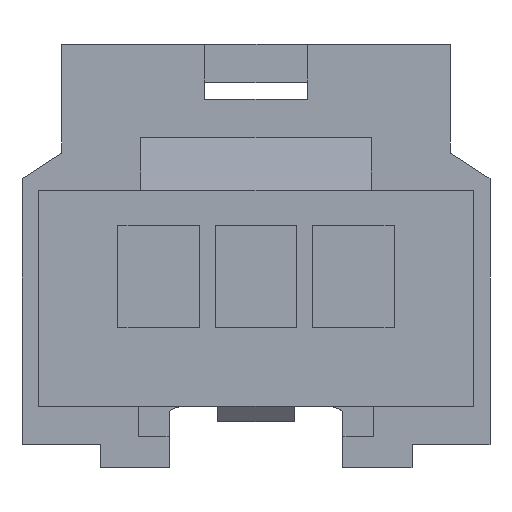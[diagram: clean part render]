
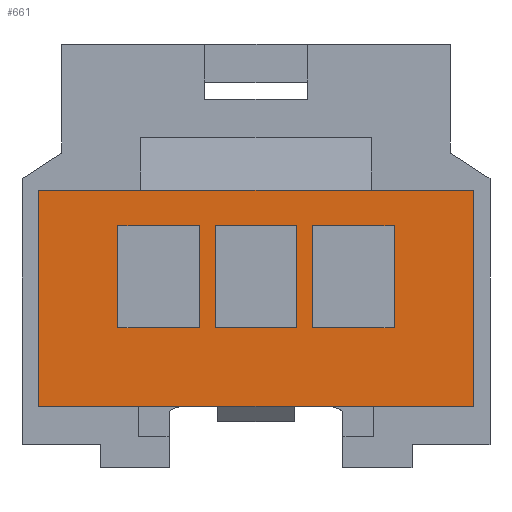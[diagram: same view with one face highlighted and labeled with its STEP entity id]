
A CAD part, front view. The second image highlights one B-rep face of the part: STEP entity #661.
In plain terms, the highlighted planar face has unit normal (0, -1, 0).
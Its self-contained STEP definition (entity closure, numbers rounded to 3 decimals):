
#539=AXIS2_PLACEMENT_3D('Plane Axis2P3D',#536,#537,#538) ;
#90=CARTESIAN_POINT('Vertex',(8.5,-18.25,-5.85)) ;
#93=CARTESIAN_POINT('Line Origine',(0.,-18.25,-5.85)) ;
#97=CARTESIAN_POINT('Vertex',(-8.5,-18.25,-5.85)) ;
#521=CARTESIAN_POINT('Vertex',(8.5,-18.25,2.6)) ;
#524=CARTESIAN_POINT('Line Origine',(8.5,-18.25,-1.625)) ;
#536=CARTESIAN_POINT('Axis2P3D Location',(-8.84,-18.25,-6.019)) ;
#541=CARTESIAN_POINT('Line Origine',(-8.5,-18.25,-1.625)) ;
#545=CARTESIAN_POINT('Vertex',(-8.5,-18.25,2.6)) ;
#548=CARTESIAN_POINT('Line Origine',(0.,-18.25,2.6)) ;
#559=CARTESIAN_POINT('Line Origine',(-3.8,-18.25,1.21)) ;
#563=CARTESIAN_POINT('Vertex',(-2.2,-18.25,1.21)) ;
#565=CARTESIAN_POINT('Vertex',(-5.4,-18.25,1.21)) ;
#568=CARTESIAN_POINT('Line Origine',(-2.2,-18.25,-0.79)) ;
#572=CARTESIAN_POINT('Vertex',(-2.2,-18.25,-2.79)) ;
#575=CARTESIAN_POINT('Line Origine',(-3.8,-18.25,-2.79)) ;
#579=CARTESIAN_POINT('Vertex',(-5.4,-18.25,-2.79)) ;
#582=CARTESIAN_POINT('Line Origine',(-5.4,-18.25,-0.79)) ;
#593=CARTESIAN_POINT('Line Origine',(0.,-18.25,1.21)) ;
#597=CARTESIAN_POINT('Vertex',(1.6,-18.25,1.21)) ;
#599=CARTESIAN_POINT('Vertex',(-1.6,-18.25,1.21)) ;
#602=CARTESIAN_POINT('Line Origine',(1.6,-18.25,-0.79)) ;
#606=CARTESIAN_POINT('Vertex',(1.6,-18.25,-2.79)) ;
#609=CARTESIAN_POINT('Line Origine',(0.,-18.25,-2.79)) ;
#613=CARTESIAN_POINT('Vertex',(-1.6,-18.25,-2.79)) ;
#616=CARTESIAN_POINT('Line Origine',(-1.6,-18.25,-0.79)) ;
#627=CARTESIAN_POINT('Line Origine',(3.8,-18.25,1.21)) ;
#631=CARTESIAN_POINT('Vertex',(5.4,-18.25,1.21)) ;
#633=CARTESIAN_POINT('Vertex',(2.2,-18.25,1.21)) ;
#636=CARTESIAN_POINT('Line Origine',(5.4,-18.25,-0.79)) ;
#640=CARTESIAN_POINT('Vertex',(5.4,-18.25,-2.79)) ;
#643=CARTESIAN_POINT('Line Origine',(3.8,-18.25,-2.79)) ;
#647=CARTESIAN_POINT('Vertex',(2.2,-18.25,-2.79)) ;
#650=CARTESIAN_POINT('Line Origine',(2.2,-18.25,-0.79)) ;
#94=DIRECTION('Vector Direction',(-1.,0.,0.)) ;
#525=DIRECTION('Vector Direction',(0.,0.,-1.)) ;
#537=DIRECTION('Axis2P3D Direction',(0.,-1.,0.)) ;
#538=DIRECTION('Axis2P3D XDirection',(1.,0.,0.)) ;
#542=DIRECTION('Vector Direction',(0.,0.,1.)) ;
#549=DIRECTION('Vector Direction',(1.,0.,0.)) ;
#560=DIRECTION('Vector Direction',(1.,0.,0.)) ;
#569=DIRECTION('Vector Direction',(0.,0.,1.)) ;
#576=DIRECTION('Vector Direction',(-1.,0.,0.)) ;
#583=DIRECTION('Vector Direction',(0.,0.,-1.)) ;
#594=DIRECTION('Vector Direction',(1.,0.,0.)) ;
#603=DIRECTION('Vector Direction',(0.,0.,1.)) ;
#610=DIRECTION('Vector Direction',(-1.,0.,0.)) ;
#617=DIRECTION('Vector Direction',(0.,0.,-1.)) ;
#628=DIRECTION('Vector Direction',(1.,0.,0.)) ;
#637=DIRECTION('Vector Direction',(0.,0.,1.)) ;
#644=DIRECTION('Vector Direction',(-1.,0.,0.)) ;
#651=DIRECTION('Vector Direction',(0.,0.,-1.)) ;
#95=VECTOR('Line Direction',#94,1.) ;
#526=VECTOR('Line Direction',#525,1.) ;
#543=VECTOR('Line Direction',#542,1.) ;
#550=VECTOR('Line Direction',#549,1.) ;
#561=VECTOR('Line Direction',#560,1.) ;
#570=VECTOR('Line Direction',#569,1.) ;
#577=VECTOR('Line Direction',#576,1.) ;
#584=VECTOR('Line Direction',#583,1.) ;
#595=VECTOR('Line Direction',#594,1.) ;
#604=VECTOR('Line Direction',#603,1.) ;
#611=VECTOR('Line Direction',#610,1.) ;
#618=VECTOR('Line Direction',#617,1.) ;
#629=VECTOR('Line Direction',#628,1.) ;
#638=VECTOR('Line Direction',#637,1.) ;
#645=VECTOR('Line Direction',#644,1.) ;
#652=VECTOR('Line Direction',#651,1.) ;
#554=ORIENTED_EDGE('',*,*,#547,.F.) ;
#555=ORIENTED_EDGE('',*,*,#99,.F.) ;
#556=ORIENTED_EDGE('',*,*,#528,.F.) ;
#557=ORIENTED_EDGE('',*,*,#552,.F.) ;
#588=ORIENTED_EDGE('',*,*,#567,.F.) ;
#589=ORIENTED_EDGE('',*,*,#574,.F.) ;
#590=ORIENTED_EDGE('',*,*,#581,.F.) ;
#591=ORIENTED_EDGE('',*,*,#586,.F.) ;
#622=ORIENTED_EDGE('',*,*,#601,.F.) ;
#623=ORIENTED_EDGE('',*,*,#608,.F.) ;
#624=ORIENTED_EDGE('',*,*,#615,.F.) ;
#625=ORIENTED_EDGE('',*,*,#620,.F.) ;
#656=ORIENTED_EDGE('',*,*,#635,.F.) ;
#657=ORIENTED_EDGE('',*,*,#642,.F.) ;
#658=ORIENTED_EDGE('',*,*,#649,.F.) ;
#659=ORIENTED_EDGE('',*,*,#654,.F.) ;
#592=FACE_BOUND('',#587,.T.) ;
#626=FACE_BOUND('',#621,.T.) ;
#660=FACE_BOUND('',#655,.T.) ;
#661=ADVANCED_FACE('MANIFOLD_SOLID_BREP #33',(#558,#592,#626,#660),#540,.T.) ;
#99=EDGE_CURVE('',#91,#98,#96,.T.) ;
#528=EDGE_CURVE('',#522,#91,#527,.T.) ;
#547=EDGE_CURVE('',#98,#546,#544,.T.) ;
#552=EDGE_CURVE('',#546,#522,#551,.T.) ;
#567=EDGE_CURVE('',#564,#566,#562,.F.) ;
#574=EDGE_CURVE('',#573,#564,#571,.T.) ;
#581=EDGE_CURVE('',#580,#573,#578,.F.) ;
#586=EDGE_CURVE('',#566,#580,#585,.T.) ;
#601=EDGE_CURVE('',#598,#600,#596,.F.) ;
#608=EDGE_CURVE('',#607,#598,#605,.T.) ;
#615=EDGE_CURVE('',#614,#607,#612,.F.) ;
#620=EDGE_CURVE('',#600,#614,#619,.T.) ;
#635=EDGE_CURVE('',#632,#634,#630,.F.) ;
#642=EDGE_CURVE('',#641,#632,#639,.T.) ;
#649=EDGE_CURVE('',#648,#641,#646,.F.) ;
#654=EDGE_CURVE('',#634,#648,#653,.T.) ;
#553=EDGE_LOOP('',(#554,#555,#556,#557)) ;
#587=EDGE_LOOP('',(#588,#589,#590,#591)) ;
#621=EDGE_LOOP('',(#622,#623,#624,#625)) ;
#655=EDGE_LOOP('',(#656,#657,#658,#659)) ;
#558=FACE_OUTER_BOUND('',#553,.T.) ;
#96=LINE('Line',#93,#95) ;
#527=LINE('Line',#524,#526) ;
#544=LINE('Line',#541,#543) ;
#551=LINE('Line',#548,#550) ;
#562=LINE('Line',#559,#561) ;
#571=LINE('Line',#568,#570) ;
#578=LINE('Line',#575,#577) ;
#585=LINE('Line',#582,#584) ;
#596=LINE('Line',#593,#595) ;
#605=LINE('Line',#602,#604) ;
#612=LINE('Line',#609,#611) ;
#619=LINE('Line',#616,#618) ;
#630=LINE('Line',#627,#629) ;
#639=LINE('Line',#636,#638) ;
#646=LINE('Line',#643,#645) ;
#653=LINE('Line',#650,#652) ;
#540=PLANE('',#539) ;
#91=VERTEX_POINT('',#90) ;
#98=VERTEX_POINT('',#97) ;
#522=VERTEX_POINT('',#521) ;
#546=VERTEX_POINT('',#545) ;
#564=VERTEX_POINT('',#563) ;
#566=VERTEX_POINT('',#565) ;
#573=VERTEX_POINT('',#572) ;
#580=VERTEX_POINT('',#579) ;
#598=VERTEX_POINT('',#597) ;
#600=VERTEX_POINT('',#599) ;
#607=VERTEX_POINT('',#606) ;
#614=VERTEX_POINT('',#613) ;
#632=VERTEX_POINT('',#631) ;
#634=VERTEX_POINT('',#633) ;
#641=VERTEX_POINT('',#640) ;
#648=VERTEX_POINT('',#647) ;
